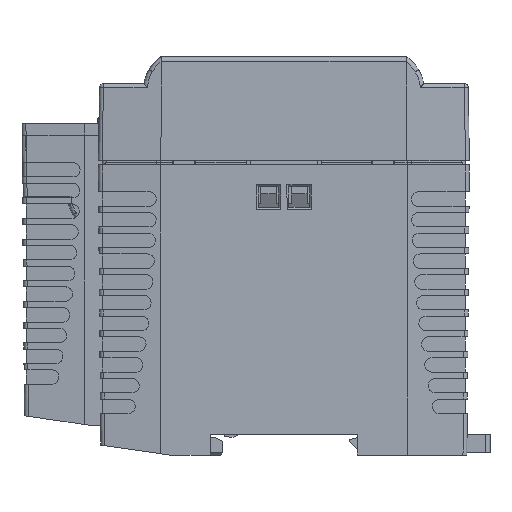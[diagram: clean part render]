
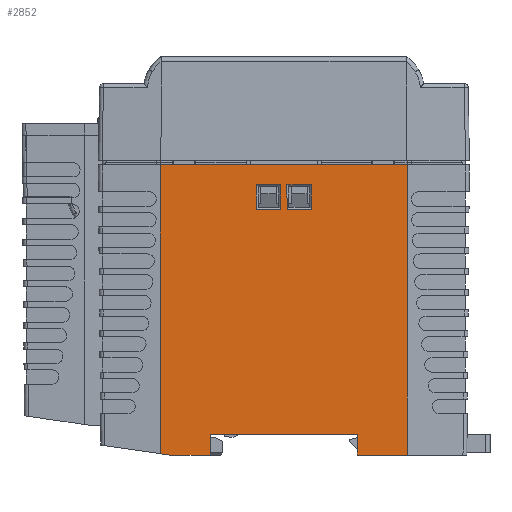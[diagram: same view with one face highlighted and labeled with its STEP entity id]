
A CAD part, left-side view. The second image highlights one B-rep face of the part: STEP entity #2852.
In plain terms, the highlighted planar face has unit normal (-1, 0, -0.009).
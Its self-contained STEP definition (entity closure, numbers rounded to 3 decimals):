
#2852 = ADVANCED_FACE( '', ( #6669, #6670, #6671 ), #6672, .F. );
#6669 = FACE_OUTER_BOUND( '', #11500, .T. );
#6670 = FACE_BOUND( '', #11501, .T. );
#6671 = FACE_BOUND( '', #11502, .T. );
#6672 = PLANE( '', #11503 );
#11500 = EDGE_LOOP( '', ( #20726, #20727, #20728, #20729, #20730, #20731, #20732, #20733, #20734 ) );
#11501 = EDGE_LOOP( '', ( #20735, #20736, #20737, #20738 ) );
#11502 = EDGE_LOOP( '', ( #20739, #20740, #20741, #20742 ) );
#11503 = AXIS2_PLACEMENT_3D( '', #20743, #20744, #20745 );
#20726 = ORIENTED_EDGE( '', *, *, #32700, .F. );
#20727 = ORIENTED_EDGE( '', *, *, #33480, .F. );
#20728 = ORIENTED_EDGE( '', *, *, #31194, .F. );
#20729 = ORIENTED_EDGE( '', *, *, #32112, .F. );
#20730 = ORIENTED_EDGE( '', *, *, #33964, .F. );
#20731 = ORIENTED_EDGE( '', *, *, #33965, .F. );
#20732 = ORIENTED_EDGE( '', *, *, #30808, .F. );
#20733 = ORIENTED_EDGE( '', *, *, #33966, .F. );
#20734 = ORIENTED_EDGE( '', *, *, #32654, .F. );
#20735 = ORIENTED_EDGE( '', *, *, #33967, .F. );
#20736 = ORIENTED_EDGE( '', *, *, #32299, .F. );
#20737 = ORIENTED_EDGE( '', *, *, #32874, .F. );
#20738 = ORIENTED_EDGE( '', *, *, #33968, .F. );
#20739 = ORIENTED_EDGE( '', *, *, #33969, .F. );
#20740 = ORIENTED_EDGE( '', *, *, #33970, .F. );
#20741 = ORIENTED_EDGE( '', *, *, #33971, .F. );
#20742 = ORIENTED_EDGE( '', *, *, #33972, .F. );
#20743 = CARTESIAN_POINT( '', ( -22.25, -31.221, -2.8 ) );
#20744 = DIRECTION( '', ( 1., 0., 0.009 ) );
#20745 = DIRECTION( '', ( 0., -1., 0. ) );
#30808 = EDGE_CURVE( '', #37589, #37591, #37592, .F. );
#31194 = EDGE_CURVE( '', #38282, #38284, #38285, .F. );
#32112 = EDGE_CURVE( '', #39883, #38282, #39885, .T. );
#32299 = EDGE_CURVE( '', #40203, #40200, #40205, .T. );
#32654 = EDGE_CURVE( '', #40787, #40789, #40790, .F. );
#32700 = EDGE_CURVE( '', #40860, #40787, #40862, .F. );
#32874 = EDGE_CURVE( '', #41137, #40203, #41139, .T. );
#33480 = EDGE_CURVE( '', #38284, #40860, #42067, .T. );
#33964 = EDGE_CURVE( '', #42786, #39883, #42787, .T. );
#33965 = EDGE_CURVE( '', #37591, #42786, #42788, .F. );
#33966 = EDGE_CURVE( '', #40789, #37589, #42789, .F. );
#33967 = EDGE_CURVE( '', #40200, #42790, #42791, .F. );
#33968 = EDGE_CURVE( '', #42790, #41137, #42792, .T. );
#33969 = EDGE_CURVE( '', #42793, #42794, #42795, .T. );
#33970 = EDGE_CURVE( '', #42796, #42793, #42797, .T. );
#33971 = EDGE_CURVE( '', #42798, #42796, #42799, .T. );
#33972 = EDGE_CURVE( '', #42794, #42798, #42800, .F. );
#37589 = VERTEX_POINT( '', #47542 );
#37591 = VERTEX_POINT( '', #47545 );
#37592 = LINE( '', #47546, #47547 );
#38282 = VERTEX_POINT( '', #48533 );
#38284 = VERTEX_POINT( '', #48536 );
#38285 = LINE( '', #48537, #48538 );
#39883 = VERTEX_POINT( '', #50967 );
#39885 = LINE( '', #50970, #50971 );
#40200 = VERTEX_POINT( '', #51445 );
#40203 = VERTEX_POINT( '', #51450 );
#40205 = LINE( '', #51453, #51454 );
#40787 = VERTEX_POINT( '', #52295 );
#40789 = VERTEX_POINT( '', #52298 );
#40790 = LINE( '', #52299, #52300 );
#40860 = VERTEX_POINT( '', #52399 );
#40862 = LINE( '', #52402, #52403 );
#41137 = VERTEX_POINT( '', #52807 );
#41139 = LINE( '', #52810, #52811 );
#42067 = LINE( '', #54185, #54186 );
#42786 = VERTEX_POINT( '', #55290 );
#42787 = LINE( '', #55291, #55292 );
#42788 = LINE( '', #55293, #55294 );
#42789 = LINE( '', #55295, #55296 );
#42790 = VERTEX_POINT( '', #55297 );
#42791 = LINE( '', #55298, #55299 );
#42792 = LINE( '', #55300, #55301 );
#42793 = VERTEX_POINT( '', #55302 );
#42794 = VERTEX_POINT( '', #55303 );
#42795 = LINE( '', #55304, #55305 );
#42796 = VERTEX_POINT( '', #55306 );
#42797 = LINE( '', #55307, #55308 );
#42798 = VERTEX_POINT( '', #55309 );
#42799 = LINE( '', #55310, #55311 );
#42800 = LINE( '', #55312, #55313 );
#47542 = CARTESIAN_POINT( '', ( -21.683, 17.75, -67.8 ) );
#47545 = CARTESIAN_POINT( '', ( -21.639, 17.75, -72.8 ) );
#47546 = CARTESIAN_POINT( '', ( -21.639, 17.75, -72.8 ) );
#47547 = VECTOR( '', #60892, 1000. );
#48533 = CARTESIAN_POINT( '', ( -22.25, 29.75, -2.8 ) );
#48536 = CARTESIAN_POINT( '', ( -22.25, -29.75, -2.8 ) );
#48537 = CARTESIAN_POINT( '', ( -22.25, 44.75, -2.8 ) );
#48538 = VECTOR( '', #61297, 1000. );
#50967 = CARTESIAN_POINT( '', ( -21.642, 29.73, -72.477 ) );
#50970 = CARTESIAN_POINT( '', ( -21.642, 29.73, -72.477 ) );
#50971 = VECTOR( '', #62204, 1000. );
#51445 = CARTESIAN_POINT( '', ( -22.157, 6.607, -13.507 ) );
#51450 = CARTESIAN_POINT( '', ( -22.208, 6.658, -7.642 ) );
#51453 = CARTESIAN_POINT( '', ( -22.208, 6.658, -7.642 ) );
#51454 = VECTOR( '', #62400, 1000. );
#52295 = CARTESIAN_POINT( '', ( -21.639, -17.75, -72.8 ) );
#52298 = CARTESIAN_POINT( '', ( -21.683, -17.75, -67.8 ) );
#52299 = CARTESIAN_POINT( '', ( -21.683, -17.75, -67.8 ) );
#52300 = VECTOR( '', #62751, 1000. );
#52399 = CARTESIAN_POINT( '', ( -21.639, -29.73, -72.8 ) );
#52402 = CARTESIAN_POINT( '', ( -21.639, -44.75, -72.8 ) );
#52403 = VECTOR( '', #62794, 1000. );
#52807 = CARTESIAN_POINT( '', ( -22.208, 0.742, -7.642 ) );
#52810 = CARTESIAN_POINT( '', ( -22.208, 3.7, -7.642 ) );
#52811 = VECTOR( '', #62975, 1000. );
#54185 = CARTESIAN_POINT( '', ( -22.25, -29.75, -2.8 ) );
#54186 = VECTOR( '', #63580, 1000. );
#55290 = CARTESIAN_POINT( '', ( -21.639, 27.5, -72.8 ) );
#55291 = CARTESIAN_POINT( '', ( -21.639, 27.5, -72.8 ) );
#55292 = VECTOR( '', #64015, 1000. );
#55293 = CARTESIAN_POINT( '', ( -21.639, -44.75, -72.8 ) );
#55294 = VECTOR( '', #64016, 1000. );
#55295 = CARTESIAN_POINT( '', ( -21.683, 0., -67.8 ) );
#55296 = VECTOR( '', #64017, 1000. );
#55297 = CARTESIAN_POINT( '', ( -22.157, 0.793, -13.507 ) );
#55298 = CARTESIAN_POINT( '', ( -22.157, 3.7, -13.507 ) );
#55299 = VECTOR( '', #64018, 1000. );
#55300 = CARTESIAN_POINT( '', ( -22.157, 0.793, -13.507 ) );
#55301 = VECTOR( '', #64019, 1000. );
#55302 = CARTESIAN_POINT( '', ( -22.208, -0.742, -7.642 ) );
#55303 = CARTESIAN_POINT( '', ( -22.157, -0.793, -13.507 ) );
#55304 = CARTESIAN_POINT( '', ( -22.208, -0.742, -7.642 ) );
#55305 = VECTOR( '', #64020, 1000. );
#55306 = CARTESIAN_POINT( '', ( -22.208, -6.658, -7.642 ) );
#55307 = CARTESIAN_POINT( '', ( -22.208, -3.7, -7.642 ) );
#55308 = VECTOR( '', #64021, 1000. );
#55309 = CARTESIAN_POINT( '', ( -22.157, -6.607, -13.507 ) );
#55310 = CARTESIAN_POINT( '', ( -22.157, -6.607, -13.507 ) );
#55311 = VECTOR( '', #64022, 1000. );
#55312 = CARTESIAN_POINT( '', ( -22.157, -3.7, -13.507 ) );
#55313 = VECTOR( '', #64023, 1000. );
#60892 = DIRECTION( '', ( -0.009, 0., 1. ) );
#61297 = DIRECTION( '', ( 0., 1., 0. ) );
#62204 = DIRECTION( '', ( -0.009, 0., 1. ) );
#62400 = DIRECTION( '', ( 0.009, -0.009, -1. ) );
#62751 = DIRECTION( '', ( 0.009, 0., -1. ) );
#62794 = DIRECTION( '', ( 0., -1., 0. ) );
#62975 = DIRECTION( '', ( 0., 1., 0. ) );
#63580 = DIRECTION( '', ( 0.009, 0., -1. ) );
#64015 = DIRECTION( '', ( -0.001, 0.99, 0.143 ) );
#64016 = DIRECTION( '', ( 0., -1., 0. ) );
#64017 = DIRECTION( '', ( 0., -1., 0. ) );
#64018 = DIRECTION( '', ( 0., 1., 0. ) );
#64019 = DIRECTION( '', ( -0.009, -0.009, 1. ) );
#64020 = DIRECTION( '', ( 0.009, -0.009, -1. ) );
#64021 = DIRECTION( '', ( 0., 1., 0. ) );
#64022 = DIRECTION( '', ( -0.009, -0.009, 1. ) );
#64023 = DIRECTION( '', ( 0., 1., 0. ) );
